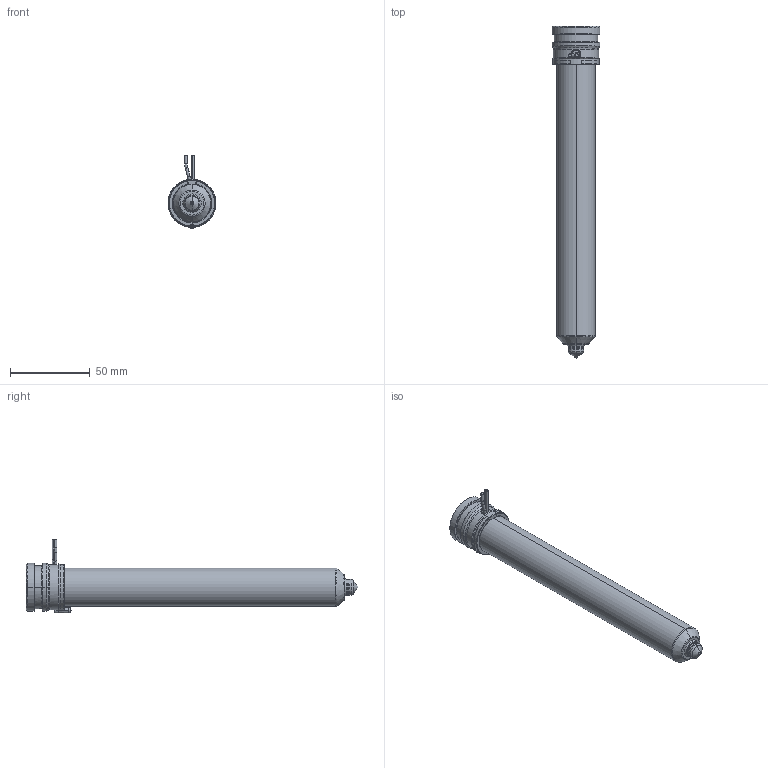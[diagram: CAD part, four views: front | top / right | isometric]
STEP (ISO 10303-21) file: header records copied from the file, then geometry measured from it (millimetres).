
FILE_DESCRIPTION((''),'2;1');
FILE_NAME('MPN-10-29-TX10-186-A','2026-02-11T11:18:00',('UVRWS'),('Thermoplay S.p.A.'),'CREO PARAMETRIC BY PTC INC, 2023494','CREO PARAMETRIC BY PTC INC, 2023494','');
FILE_SCHEMA(('CONFIG_CONTROL_DESIGN','SHAPE_APPEARANCE_LAYERS_GROUPS'));
Length unit declared in the file: millimetre
Products named in the file (1): MPN-10-29-TX10-186-A
Bounding box: 30 x 207.5 x 46 mm (x, y, z)
Volume: 63950 mm3; surface area: 64794.7 mm2
Topology: 2 solids, 3 shells, 551 faces, 1455 edges, 899 vertices
Faces by surface type: cylinder 180, plane 143, bspline 79, torus 68, cone 66, sphere 11, extrusion 4
Entity records: 31345 total; most frequent: CARTESIAN_POINT 14989, ORIENTED_EDGE 2894, DIRECTION 2641, EDGE_CURVE 1447, AXIS2_PLACEMENT_3D 1045, VERTEX_POINT 899, EDGE_LOOP 580, CIRCLE 576
